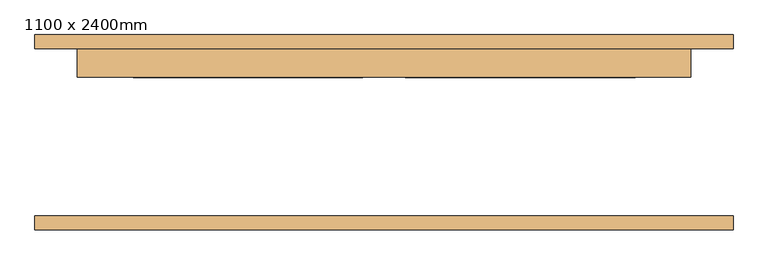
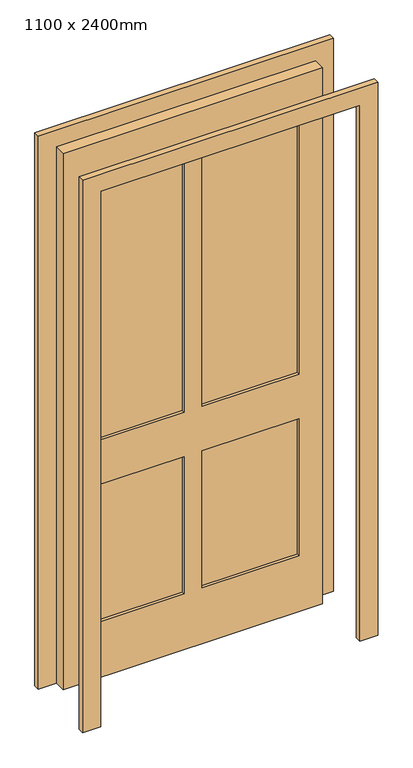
"""IFC4 building model written with IfcOpenShell, lengths in millimetres: door geometry, JednokridleOteviraveSkloVypln : 1100 x 2400mm."""

from ifc_helpers import new_model, si_unit, frame, origin, place, context, project, spatial, polyline, outline, extrude, source, transform, mapped, element, save


def door_1100_x_2400mm_4252e609(model_context):
    return source(origin(), model_context, "Body", "SweptSolid", [
        extrude(outline(polyline([(2476.0, -626.0), (0.0, -626.0), (0.0, -550.1240165), (2401.3906173, -550.1240165), (2401.3906173, 549.8759835), (0.0, 549.8759835), (0.0, 626.0), (2476.0, 626.0), (2476.0, -626.0)])), frame((0.0, 150.005, 0.0), z_axis=(0.0, 1.0, 0.0), x_axis=(0.0, 0.0, 1.0)), (0.0, 0.0, 1.0), 25.0),
        extrude(outline(polyline([(2476.0, 626.0), (2476.0, -626.0), (1.3906173, -626.0), (1.3906173, -550.1240165), (2400.0, -550.1240165), (2400.0, 550.0), (0.0, 550.0), (0.0, 626.0), (2476.0, 626.0)])), frame((0.0, -174.995, 0.0), z_axis=(0.0, 1.0, 0.0), x_axis=(0.0, 0.0, 1.0)), (0.0, 0.0, 1.0), 25.0),
        extrude(outline(polyline([(-37.9166629, 111.905), (-450.0, 111.905), (-450.0, 137.305), (-37.9166629, 137.305), (-37.9166629, 111.905)])), frame((0.0, 0.0, 1063.6), z_axis=(0.0, 0.0, 1.0), x_axis=(1.0, 0.0, 0.0)), (0.0, 0.0, 1.0), 1161.6046757),
        extrude(outline(polyline([(450.0, 111.905), (37.4271634, 111.905), (37.4271634, 137.305), (450.0, 137.305), (450.0, 111.905)])), frame((0.0, 0.0, 1063.6), z_axis=(0.0, 0.0, 1.0), x_axis=(1.0, 0.0, 0.0)), (0.0, 0.0, 1.0), 1161.6046757),
        extrude(outline(polyline([(-37.9166629, 111.905), (-450.0, 111.905), (-450.0, 137.305), (-37.9166629, 137.305), (-37.9166629, 111.905)])), frame((0.0, 0.0, 250.2046757), z_axis=(0.0, 0.0, 1.0), x_axis=(1.0, 0.0, 0.0)), (0.0, 0.0, 1.0), 613.6),
        extrude(outline(polyline([(450.0, 111.905), (37.4271634, 111.905), (37.4271634, 137.305), (450.0, 137.305), (450.0, 111.905)])), frame((0.0, 0.0, 250.2046757), z_axis=(0.0, 0.0, 1.0), x_axis=(1.0, 0.0, 0.0)), (0.0, 0.0, 1.0), 613.3953243),
        extrude(outline(polyline([(2401.3906173, 549.8759835), (2401.3906173, -550.1240165), (1.3906173, -550.1240165), (1.3906173, 549.8759835), (2401.3906173, 549.8759835)]), holes=[polyline([(2226.595293, -38.2240165), (1064.9906173, -38.2240165), (1064.9906173, -449.4511799), (2226.595293, -449.4511799), (2226.595293, -38.2240165)]), polyline([(2226.595293, 450.5488201), (1064.9906173, 450.5488201), (1064.9906173, 37.9759835), (2226.595293, 37.9759835), (2226.595293, 450.5488201)]), polyline([(865.195293, -38.2240165), (251.595293, -38.2240165), (251.595293, -449.4511799), (865.195293, -449.4511799), (865.195293, -38.2240165)]), polyline([(864.9906173, 450.5488201), (251.595293, 450.5488201), (251.595293, 37.9759835), (864.9906173, 37.9759835), (864.9906173, 450.5488201)])]), frame((0.0, 99.005, 0.0), z_axis=(0.0, 1.0, 0.0), x_axis=(0.0, 0.0, 1.0)), (0.0, 0.0, 1.0), 51.0),
    ])


if __name__ == "__main__":
    model = new_model("IFC4")
    model_context = context("Model", 3, world=origin())
    ifc_project = project(units=[si_unit("LENGTHUNIT", "METRE", prefix="MILLI")], contexts=[model_context])
    site = spatial("IfcSite", under=ifc_project)
    building = spatial("IfcBuilding", under=site)
    placement = place(None, origin())
    door_1100_x_2400mm_shape = door_1100_x_2400mm_4252e609(model_context)
    element("IfcDoor", 1, ObjectType="JednokridleOteviraveSkloVypln : 1100 x 2400mm", at=placement, inside=building, context=model_context, shape_type="MappedRepresentation", body=[
        mapped(door_1100_x_2400mm_shape, transform((0.0, 0.0, 0.0), x_axis=(1.0, 0.0, 0.0), y_axis=(0.0, 1.0, 0.0), z_axis=(0.0, 0.0, 1.0))),
    ])
    save(model, "model.ifc")
